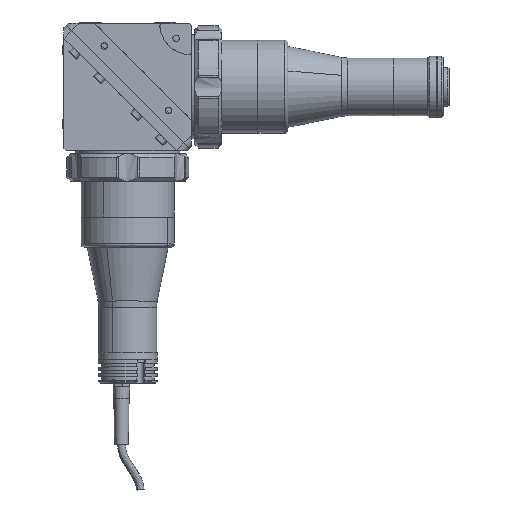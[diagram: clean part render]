
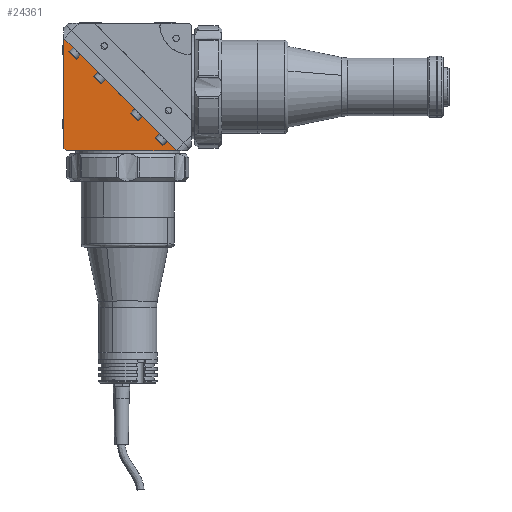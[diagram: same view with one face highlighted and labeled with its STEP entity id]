
A CAD part, top view. The second image highlights one B-rep face of the part: STEP entity #24361.
In plain terms, the highlighted free-form (B-spline) face has degree [1, 1] with [2, 2] control points.
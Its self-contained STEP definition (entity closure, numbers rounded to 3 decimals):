
#24361 = ADVANCED_FACE('',(#24362),#24376,.T.);
#24362 = FACE_BOUND('',#24363,.T.);
#24363 = EDGE_LOOP('',(#24364,#24386,#24401,#24416,#24431));
#24364 = ORIENTED_EDGE('',*,*,#24365,.T.);
#24365 = EDGE_CURVE('',#24366,#24368,#24370,.T.);
#24366 = VERTEX_POINT('',#24367);
#24367 = CARTESIAN_POINT('',(0.,-41.682,34.));
#24368 = VERTEX_POINT('',#24369);
#24369 = CARTESIAN_POINT('',(31.783,-41.682,34.));
#24370 = SURFACE_CURVE('',#24371,(#24375),.PCURVE_S1.);
#24371 = LINE('',#24372,#24373);
#24372 = CARTESIAN_POINT('',(0.,-41.682,34.));
#24373 = VECTOR('',#24374,1.);
#24374 = DIRECTION('',(1.,0.,0.));
#24375 = PCURVE('',#24376,#24381);
#24376 = B_SPLINE_SURFACE_WITH_KNOTS('',1,1,(
    (#24377,#24378)
    ,(#24379,#24380
    )),.UNSPECIFIED.,.F.,.F.,.F.,(2,2),(2,2),(0.,1.),(0.,1.),
  .PIECEWISE_BEZIER_KNOTS.);
#24377 = CARTESIAN_POINT('',(-41.682,-41.682,34.));
#24378 = CARTESIAN_POINT('',(-41.682,31.783,34.));
#24379 = CARTESIAN_POINT('',(31.783,-41.682,34.));
#24380 = CARTESIAN_POINT('',(31.783,31.783,34.));
#24381 = DEFINITIONAL_REPRESENTATION('',(#24382),#24385);
#24382 = B_SPLINE_CURVE_WITH_KNOTS('',1,(#24383,#24384),.UNSPECIFIED.,
  .F.,.F.,(2,2),(0.,31.783),.PIECEWISE_BEZIER_KNOTS.);
#24383 = CARTESIAN_POINT('',(0.567,0.));
#24384 = CARTESIAN_POINT('',(1.,0.));
#24385 = ( GEOMETRIC_REPRESENTATION_CONTEXT(2) 
PARAMETRIC_REPRESENTATION_CONTEXT() REPRESENTATION_CONTEXT('',''
  ) );
#24386 = ORIENTED_EDGE('',*,*,#24387,.T.);
#24387 = EDGE_CURVE('',#24368,#24388,#24390,.T.);
#24388 = VERTEX_POINT('',#24389);
#24389 = CARTESIAN_POINT('',(-41.682,31.783,34.));
#24390 = SURFACE_CURVE('',#24391,(#24395),.PCURVE_S1.);
#24391 = LINE('',#24392,#24393);
#24392 = CARTESIAN_POINT('',(31.783,-41.682,34.));
#24393 = VECTOR('',#24394,1.);
#24394 = DIRECTION('',(-0.707,0.707,0.));
#24395 = PCURVE('',#24376,#24396);
#24396 = DEFINITIONAL_REPRESENTATION('',(#24397),#24400);
#24397 = B_SPLINE_CURVE_WITH_KNOTS('',1,(#24398,#24399),.UNSPECIFIED.,
  .F.,.F.,(2,2),(0.,103.896),.PIECEWISE_BEZIER_KNOTS.);
#24398 = CARTESIAN_POINT('',(1.,0.));
#24399 = CARTESIAN_POINT('',(0.,1.));
#24400 = ( GEOMETRIC_REPRESENTATION_CONTEXT(2) 
PARAMETRIC_REPRESENTATION_CONTEXT() REPRESENTATION_CONTEXT('',''
  ) );
#24401 = ORIENTED_EDGE('',*,*,#24402,.T.);
#24402 = EDGE_CURVE('',#24388,#24403,#24405,.T.);
#24403 = VERTEX_POINT('',#24404);
#24404 = CARTESIAN_POINT('',(-41.682,-40.268,34.));
#24405 = SURFACE_CURVE('',#24406,(#24410),.PCURVE_S1.);
#24406 = LINE('',#24407,#24408);
#24407 = CARTESIAN_POINT('',(-41.682,31.783,34.));
#24408 = VECTOR('',#24409,1.);
#24409 = DIRECTION('',(0.,-1.,0.));
#24410 = PCURVE('',#24376,#24411);
#24411 = DEFINITIONAL_REPRESENTATION('',(#24412),#24415);
#24412 = B_SPLINE_CURVE_WITH_KNOTS('',1,(#24413,#24414),.UNSPECIFIED.,
  .F.,.F.,(2,2),(0.,72.051),.PIECEWISE_BEZIER_KNOTS.);
#24413 = CARTESIAN_POINT('',(0.,1.));
#24414 = CARTESIAN_POINT('',(0.,0.019));
#24415 = ( GEOMETRIC_REPRESENTATION_CONTEXT(2) 
PARAMETRIC_REPRESENTATION_CONTEXT() REPRESENTATION_CONTEXT('',''
  ) );
#24416 = ORIENTED_EDGE('',*,*,#24417,.T.);
#24417 = EDGE_CURVE('',#24403,#24418,#24420,.T.);
#24418 = VERTEX_POINT('',#24419);
#24419 = CARTESIAN_POINT('',(-40.268,-41.682,34.));
#24420 = SURFACE_CURVE('',#24421,(#24425),.PCURVE_S1.);
#24421 = LINE('',#24422,#24423);
#24422 = CARTESIAN_POINT('',(-41.682,-40.268,34.));
#24423 = VECTOR('',#24424,1.);
#24424 = DIRECTION('',(0.707,-0.707,0.));
#24425 = PCURVE('',#24376,#24426);
#24426 = DEFINITIONAL_REPRESENTATION('',(#24427),#24430);
#24427 = B_SPLINE_CURVE_WITH_KNOTS('',1,(#24428,#24429),.UNSPECIFIED.,
  .F.,.F.,(2,2),(0.,2.),.PIECEWISE_BEZIER_KNOTS.);
#24428 = CARTESIAN_POINT('',(0.,0.019));
#24429 = CARTESIAN_POINT('',(0.019,0.));
#24430 = ( GEOMETRIC_REPRESENTATION_CONTEXT(2) 
PARAMETRIC_REPRESENTATION_CONTEXT() REPRESENTATION_CONTEXT('',''
  ) );
#24431 = ORIENTED_EDGE('',*,*,#24432,.T.);
#24432 = EDGE_CURVE('',#24418,#24366,#24433,.T.);
#24433 = SURFACE_CURVE('',#24434,(#24438),.PCURVE_S1.);
#24434 = LINE('',#24435,#24436);
#24435 = CARTESIAN_POINT('',(-40.268,-41.682,34.));
#24436 = VECTOR('',#24437,1.);
#24437 = DIRECTION('',(1.,0.,0.));
#24438 = PCURVE('',#24376,#24439);
#24439 = DEFINITIONAL_REPRESENTATION('',(#24440),#24443);
#24440 = B_SPLINE_CURVE_WITH_KNOTS('',1,(#24441,#24442),.UNSPECIFIED.,
  .F.,.F.,(2,2),(0.,40.268),.PIECEWISE_BEZIER_KNOTS.);
#24441 = CARTESIAN_POINT('',(0.019,0.));
#24442 = CARTESIAN_POINT('',(0.567,0.));
#24443 = ( GEOMETRIC_REPRESENTATION_CONTEXT(2) 
PARAMETRIC_REPRESENTATION_CONTEXT() REPRESENTATION_CONTEXT('',''
  ) );
